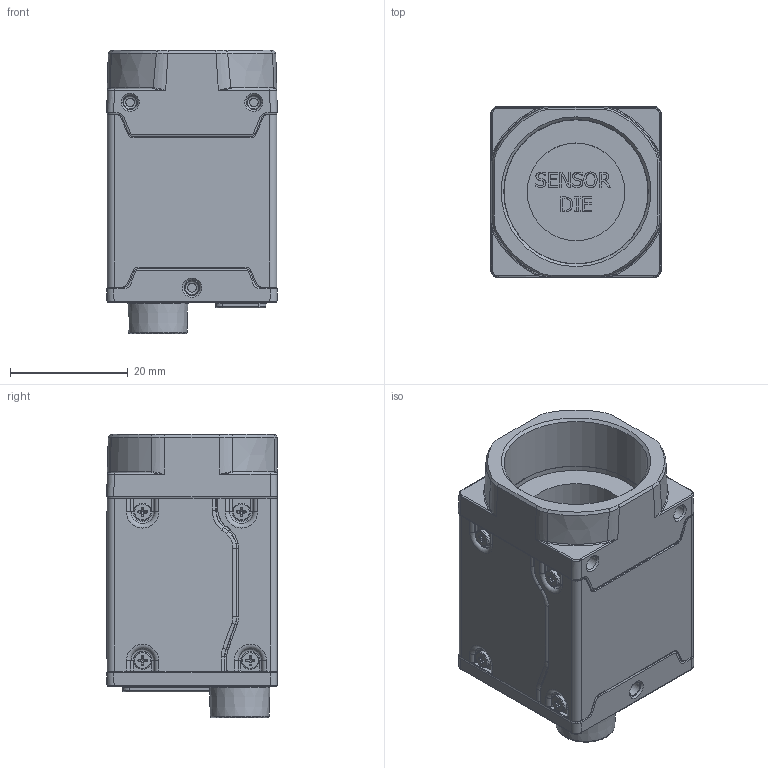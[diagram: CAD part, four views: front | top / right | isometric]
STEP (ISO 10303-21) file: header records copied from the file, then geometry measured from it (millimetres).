
FILE_DESCRIPTION(/* description */ ('Basler ace2 USB3'),/* implementation_level */ '2;1');
FILE_NAME(/* name */ 'C:\Users\lzins\Desktop\Basler ace2 USB3.stp',/* time_stamp */ '2019-05-20T10:26:12+02:00',/* author */ ('LZins'),/* organization */ (''),/* preprocessor_version */ 'ST-DEVELOPER v16.1',/* originating_system */ 'Autodesk Inventor 2016',/* authorisation */ '');
FILE_SCHEMA (('AUTOMOTIVE_DESIGN { 1 0 10303 214 3 1 1 }'));
Products named in the file (1): IP02765301
Bounding box: 29 x 29 x 48.12 mm (x, y, z)
Volume: 28442.1 mm3; surface area: 9703.6 mm2
Topology: 1 solids, 15 shells, 2780 faces, 8137 edges, 5447 vertices
Faces by surface type: plane 1456, cylinder 480, bspline 414, cone 239, torus 189, sphere 2
Full cylindrical faces by diameter (mm): 0.65 x1, 0.7 x1, 1.39 x8, 1.4 x6, 1.567 x2, 1.8 x8, 1.85 x8, 2.459 x3, 2.5 x1, 3 x8, 6.917 x1, 7.6 x1, 16.6 x1, 24.45 x1, 24.536 x1
Entity records: 192390 total; most frequent: CARTESIAN_POINT 120034, ORIENTED_EDGE 15848, DIRECTION 13034, EDGE_CURVE 7817, VERTEX_POINT 5321, AXIS2_PLACEMENT_3D 4364, LINE 4306, VECTOR 4306
